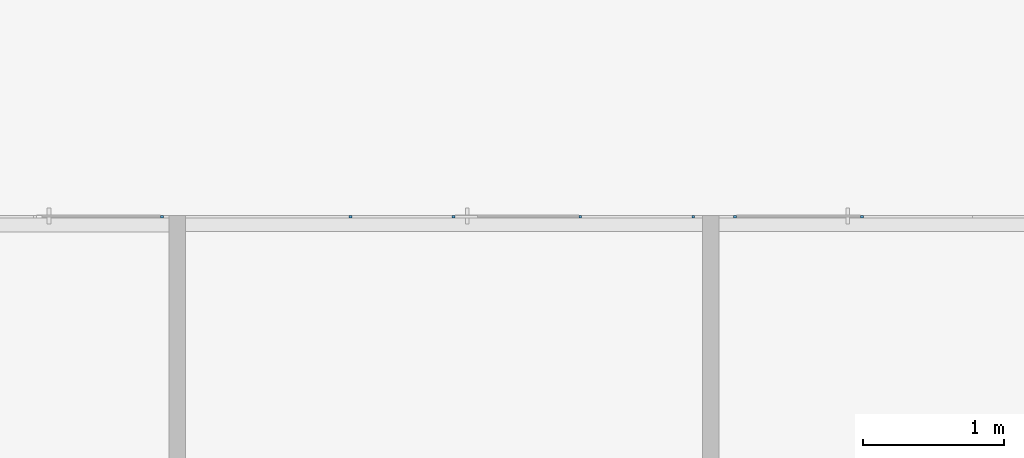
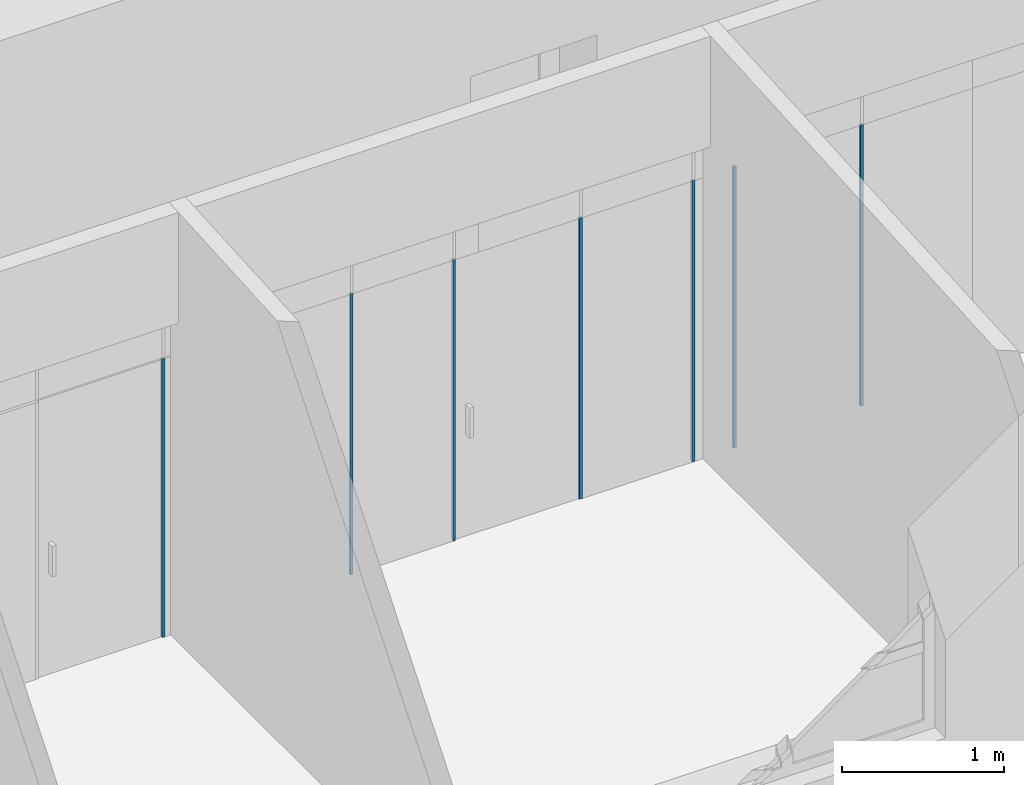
# One storey, part 2 of 46: 8 members, 3 elements without a shape of their own.
"""IFC2X3 building model written with IfcOpenShell, lengths in millimetres."""

from ifc_helpers import new_model, entity, si_unit, converted_unit, derived_unit, direction, frame, origin, origin_2d_with_axis, place, context, subcontext, project, spatial, rectangle, extrude, source, transform, mapped, material, type_object, type_shapes, element, aggregate, save


model = new_model("IFC2X3")

# Units and contexts
model_context = context("Model", 3, precision=0.01, world=origin(), true_north=direction((6.12303176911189e-17, 1.0)))
body_context = subcontext(model_context, "Body", "Model", "MODEL_VIEW")
ifc_project = project(units=[si_unit("LENGTHUNIT", "METRE", prefix="MILLI"), si_unit("AREAUNIT", "SQUARE_METRE"), si_unit("VOLUMEUNIT", "CUBIC_METRE"), converted_unit("PLANEANGLEUNIT", "DEGREE", entity("IfcRatioMeasure", 0.0174532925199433), si_unit("PLANEANGLEUNIT", "RADIAN"), dimensions=[0, 0, 0, 0, 0, 0, 0]), si_unit("MASSUNIT", "GRAM", prefix="KILO"), derived_unit("MASSDENSITYUNIT", [(si_unit("MASSUNIT", "GRAM", prefix="KILO"), 1), (si_unit("LENGTHUNIT", "METRE"), -3)]), si_unit("TIMEUNIT", "SECOND"), si_unit("FREQUENCYUNIT", "HERTZ"), si_unit("THERMODYNAMICTEMPERATUREUNIT", "DEGREE_CELSIUS"), derived_unit("THERMALTRANSMITTANCEUNIT", [(si_unit("MASSUNIT", "GRAM", prefix="KILO"), 1), (si_unit("THERMODYNAMICTEMPERATUREUNIT", "KELVIN"), -1), (si_unit("TIMEUNIT", "SECOND"), -3)]), derived_unit("VOLUMETRICFLOWRATEUNIT", [(si_unit("LENGTHUNIT", "METRE"), 3), (si_unit("TIMEUNIT", "SECOND"), -1)]), si_unit("ELECTRICCURRENTUNIT", "AMPERE"), si_unit("ELECTRICVOLTAGEUNIT", "VOLT"), si_unit("POWERUNIT", "WATT"), si_unit("FORCEUNIT", "NEWTON", prefix="KILO"), si_unit("ILLUMINANCEUNIT", "LUX"), si_unit("LUMINOUSFLUXUNIT", "LUMEN"), si_unit("LUMINOUSINTENSITYUNIT", "CANDELA"), derived_unit("USERDEFINED", [(si_unit("MASSUNIT", "GRAM", prefix="KILO"), -1), (si_unit("LENGTHUNIT", "METRE"), -2), (si_unit("TIMEUNIT", "SECOND"), 3), (si_unit("LUMINOUSFLUXUNIT", "LUMEN"), 1)]), derived_unit("LINEARVELOCITYUNIT", [(si_unit("LENGTHUNIT", "METRE"), 1), (si_unit("TIMEUNIT", "SECOND"), -1)]), si_unit("PRESSUREUNIT", "PASCAL"), derived_unit("USERDEFINED", [(si_unit("LENGTHUNIT", "METRE"), -2), (si_unit("MASSUNIT", "GRAM", prefix="KILO"), 1), (si_unit("TIMEUNIT", "SECOND"), -2)])], contexts=[model_context])

# Site, building, storey
site_placement = place(None, frame((-151.875543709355, 2715.0, 0.0)))
site = spatial("IfcSite", under=ifc_project, at=site_placement, Name="Surface", CompositionType="ELEMENT")
building_placement = place(site_placement, origin())
building = spatial("IfcBuilding", under=site, at=building_placement, CompositionType="ELEMENT")
storey_placement = place(building_placement, frame((0.0, 0.0, 10060.0)))
storey = spatial("IfcBuildingStorey", under=building, at=storey_placement, Name="4 korrus", CompositionType="ELEMENT", Elevation=10060.0000000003)

# Curtain wall, member
curtain_wall_type_1 = type_object("IfcCurtainWallType", Name="Curtain Wall:Klaassein KLS-24", PredefinedType="NOTDEFINED")
curtain_wall_1_placement = place(storey_placement, frame((0.0, 0.0, -10060.0)))
curtain_wall_1 = element("IfcCurtainWall", 1, at=curtain_wall_1_placement, inside=storey, type_object=curtain_wall_type_1, Name="Curtain Wall:Klaassein KLS-24", ObjectType="Curtain Wall:Klaassein KLS-24")
ifc_material = material(Name="__Uks_hele tamm")
member_type_1 = type_object("IfcMemberType", Name="20 x 20mm", PredefinedType="MEMBER")
shared_shape_1 = source(origin(), body_context, "Body", "SweptSolid", [
    extrude(rectangle(XDim=20.0, YDim=20.0, at=origin_2d_with_axis()), frame((0.0, 0.0, -2090.0), z_axis=(0.0, 0.0, 1.0), x_axis=(0.0, -1.0, 0.0)), (0.0, 0.0, 1.0), 2090.0),
])
type_shapes(member_type_1, [shared_shape_1])
member_1_placement = place(storey_placement, frame((8951.56472640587, 4355.0449339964, 0.0), z_axis=(0.0, 0.0, -1.0), x_axis=(-1.0, 0.0, 0.0)))
member_1 = element("IfcMember", 2, at=member_1_placement, type_object=member_type_1, material=ifc_material, Name="Rectangular Mullion:20 x 20mm", ObjectType="20 x 20mm", context=body_context, shape_type="MappedRepresentation", body=[
    mapped(shared_shape_1, transform((0.0, 0.0, 0.0), scale=1.0)),
])
aggregate(curtain_wall_1, [member_1])

# Curtain wall, members
curtain_wall_type_2 = type_object("IfcCurtainWallType", Name="Curtain Wall:Klaassein KLS-26", PredefinedType="NOTDEFINED")
curtain_wall_2_placement = place(storey_placement, frame((0.0, 0.0, -10060.0)))
curtain_wall_2 = element("IfcCurtainWall", 3, at=curtain_wall_2_placement, inside=storey, type_object=curtain_wall_type_2, Name="Curtain Wall:Klaassein KLS-26", ObjectType="Curtain Wall:Klaassein KLS-26")
member_type_2 = type_object("IfcMemberType", Name="20 x 20mm", PredefinedType="MEMBER")
shared_shape_2 = source(origin(), body_context, "Body", "SweptSolid", [
    extrude(rectangle(XDim=20.0, YDim=20.0, at=origin_2d_with_axis()), frame((0.0, 0.0, -2110.0), z_axis=(0.0, 0.0, 1.0), x_axis=(0.0, -1.0, 0.0)), (0.0, 0.0, 1.0), 2110.0),
])
type_shapes(member_type_2, [shared_shape_2])
member_2_placement = place(storey_placement, frame((13913.5647267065, 4355.1956268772, 0.0), z_axis=(0.0, 0.0, -1.0), x_axis=(1.0, 0.0, 0.0)))
member_2 = element("IfcMember", 4, at=member_2_placement, type_object=member_type_2, material=ifc_material, Name="Rectangular Mullion:20 x 20mm", ObjectType="20 x 20mm", context=body_context, shape_type="MappedRepresentation", body=[
    mapped(shared_shape_2, transform((0.0, 0.0, 0.0), scale=1.0)),
])
member_3_placement = place(storey_placement, frame((13013.5647267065, 4355.1956268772, 0.0), z_axis=(0.0, 0.0, -1.0), x_axis=(1.0, 0.0, 0.0)))
member_3 = element("IfcMember", 5, at=member_3_placement, type_object=member_type_2, material=ifc_material, Name="Rectangular Mullion:20 x 20mm", ObjectType="20 x 20mm", context=body_context, shape_type="MappedRepresentation", body=[
    mapped(shared_shape_2, transform((0.0, 0.0, 0.0), scale=1.0)),
])
member_4_placement = place(storey_placement, frame((13914.5647267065, 4355.1956268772, 0.0), z_axis=(0.0, 0.0, -1.0), x_axis=(1.0, 0.0, 0.0)))
member_4 = element("IfcMember", 6, at=member_4_placement, type_object=member_type_2, material=ifc_material, Name="Rectangular Mullion:20 x 20mm", ObjectType="20 x 20mm", context=body_context, shape_type="MappedRepresentation", body=[
    mapped(shared_shape_2, transform((0.0, 0.0, 0.0), scale=1.0)),
])
aggregate(curtain_wall_2, [member_2, member_3, member_4])

curtain_wall_type_3 = type_object("IfcCurtainWallType", Name="Curtain Wall:Klaassein KLS-25", PredefinedType="NOTDEFINED")
curtain_wall_3_placement = place(storey_placement, frame((0.0, 0.0, -10060.0)))
curtain_wall_3 = element("IfcCurtainWall", 7, at=curtain_wall_3_placement, inside=storey, type_object=curtain_wall_type_3, Name="Curtain Wall:Klaassein KLS-25", ObjectType="Curtain Wall:Klaassein KLS-25")
member_5_placement = place(storey_placement, frame((10288.8755458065, 4355.19562687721, 0.0), z_axis=(0.0, 0.0, -1.0), x_axis=(1.0, 0.0, 0.0)))
member_5 = element("IfcMember", 8, at=member_5_placement, type_object=member_type_2, material=ifc_material, Name="Rectangular Mullion:20 x 20mm", ObjectType="20 x 20mm", context=body_context, shape_type="MappedRepresentation", body=[
    mapped(shared_shape_2, transform((0.0, 0.0, 0.0), scale=1.0)),
])
member_6_placement = place(storey_placement, frame((11017.5647267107, 4355.19562687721, 0.0), z_axis=(0.0, 0.0, -1.0), x_axis=(1.0, 0.0, 0.0)))
member_6 = element("IfcMember", 9, at=member_6_placement, type_object=member_type_2, material=ifc_material, Name="Rectangular Mullion:20 x 20mm", ObjectType="20 x 20mm", context=body_context, shape_type="MappedRepresentation", body=[
    mapped(shared_shape_2, transform((0.0, 0.0, 0.0), scale=1.0)),
])
member_7_placement = place(storey_placement, frame((11917.5647267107, 4355.19562687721, 0.0), z_axis=(0.0, 0.0, -1.0), x_axis=(1.0, 0.0, 0.0)))
member_7 = element("IfcMember", 10, at=member_7_placement, type_object=member_type_2, material=ifc_material, Name="Rectangular Mullion:20 x 20mm", ObjectType="20 x 20mm", context=body_context, shape_type="MappedRepresentation", body=[
    mapped(shared_shape_2, transform((0.0, 0.0, 0.0), scale=1.0)),
])
member_8_placement = place(storey_placement, frame((12717.5647267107, 4355.1956268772, 0.0), z_axis=(0.0, 0.0, -1.0), x_axis=(1.0, 0.0, 0.0)))
member_8 = element("IfcMember", 11, at=member_8_placement, type_object=member_type_2, material=ifc_material, Name="Rectangular Mullion:20 x 20mm", ObjectType="20 x 20mm", context=body_context, shape_type="MappedRepresentation", body=[
    mapped(shared_shape_2, transform((0.0, 0.0, 0.0), scale=1.0)),
])
aggregate(curtain_wall_3, [member_5, member_6, member_7, member_8])

save(model, "model.ifc")
